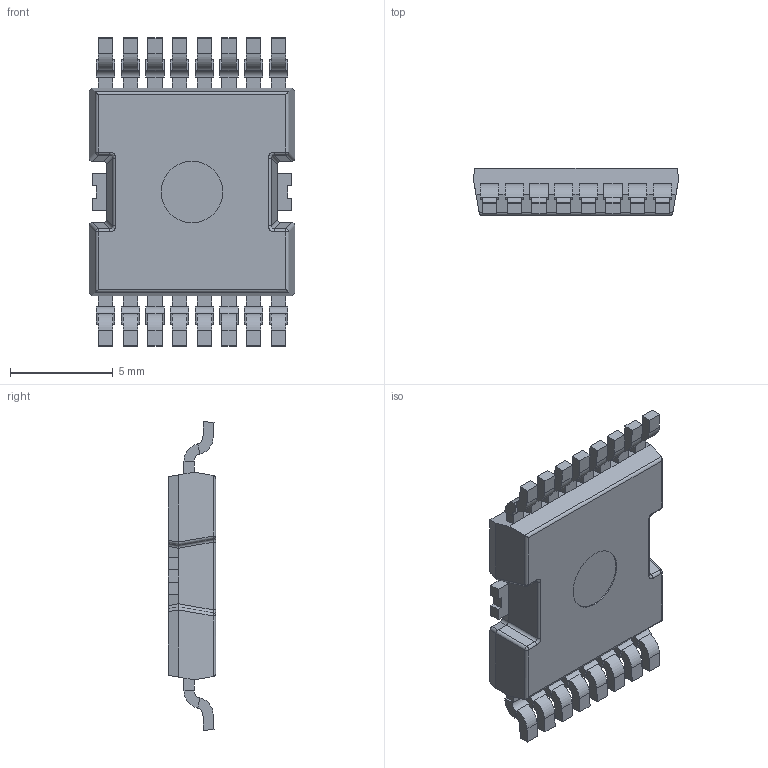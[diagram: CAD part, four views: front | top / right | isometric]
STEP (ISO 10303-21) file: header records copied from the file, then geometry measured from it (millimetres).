
FILE_DESCRIPTION((''),'2;1');
FILE_NAME('TOLT_16L-4QS_ASM','2024-03-04T17:34:53',('ZhenZhou'),(''),'CREO PARAMETRIC BY PTC INC, 2022284','CREO PARAMETRIC BY PTC INC, 2022284','');
FILE_SCHEMA(('AUTOMOTIVE_DESIGN { 1 0 10303 214 1 1 1 1 }'));
Length unit declared in the file: millimetre
Products named in the file (3): MOLD_COMPOUND; HEATSINK; TOLT_16L-4QS_ASM
Assembly tree (2 placements, depth 2):
  TOLT_16L-4QS_ASM
    MOLD_COMPOUND
    HEATSINK
Bounding box: 10 x 2.3 x 15 mm (x, y, z)
Volume: 227.1 mm3; surface area: 512 mm2
Topology: 2 solids, 2 shells, 484 faces, 1358 edges, 880 vertices
Faces by surface type: plane 356, cylinder 120, sphere 4, bspline 4
Entity records: 23606 total; most frequent: CARTESIAN_POINT 3074, ORIENTED_EDGE 2716, DIRECTION 2568, PRESENTATION_STYLE_ASSIGNMENT 1666, STYLED_ITEM 1362, CURVE_STYLE 1358, EDGE_CURVE 1358, VECTOR 1062
